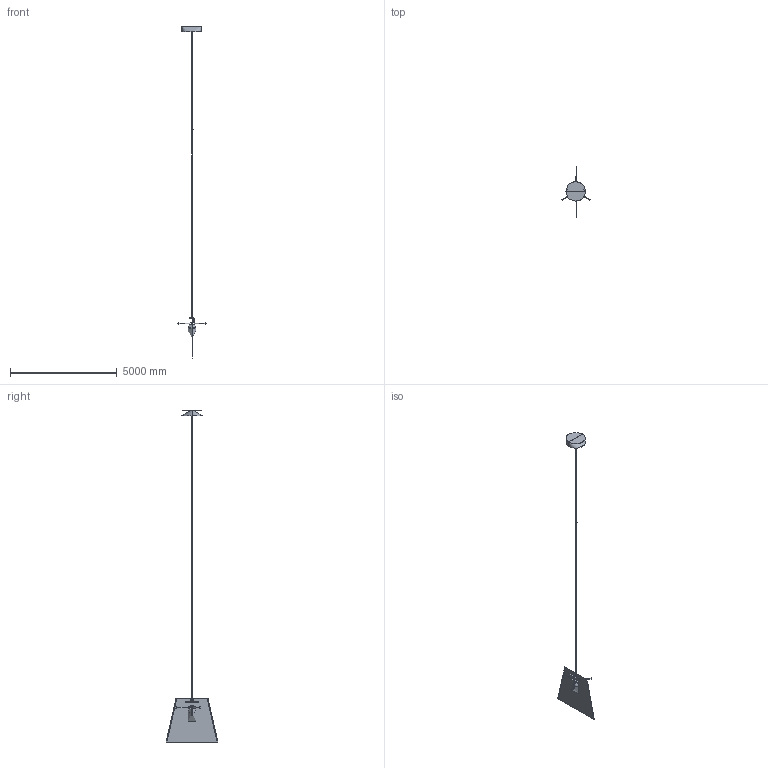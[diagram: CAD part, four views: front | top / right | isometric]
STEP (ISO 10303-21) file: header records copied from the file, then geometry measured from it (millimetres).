
FILE_DESCRIPTION(/* description */ (''),/* implementation_level */ '2;1');
FILE_NAME(/* name */ '1107',/* time_stamp */ '2022-01-18T14:47:13+01:00',/* author */ (''),/* organization */ (''),/* preprocessor_version */ 'ST-DEVELOPER v16.5',/* originating_system */ '',/* authorisation */ '');
FILE_SCHEMA (('CONFIG_CONTROL_DESIGN'));
Length unit declared in the file: centimetre
Products named in the file (1): Document
Bounding box: 1320.76 x 2420 x 15539 mm (x, y, z)
Volume: 588971191.9 mm3; surface area: 35369669.1 mm2
Topology: 18 solids, 18 shells, 208 faces, 482 edges, 307 vertices
Faces by surface type: plane 99, cylinder 81, bspline 28
Entity records: 7240 total; most frequent: CARTESIAN_POINT 3903, ORIENTED_EDGE 936, EDGE_CURVE 468, VERTEX_POINT 307, EDGE_LOOP 251, B_SPLINE_CURVE_WITH_KNOTS 236, ADVANCED_FACE 208, FACE_OUTER_BOUND 208
